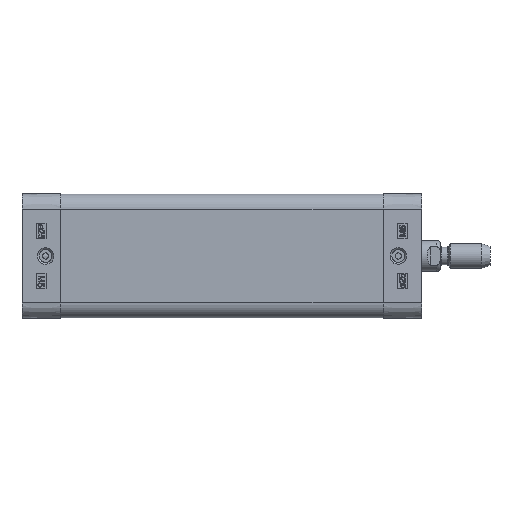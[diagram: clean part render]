
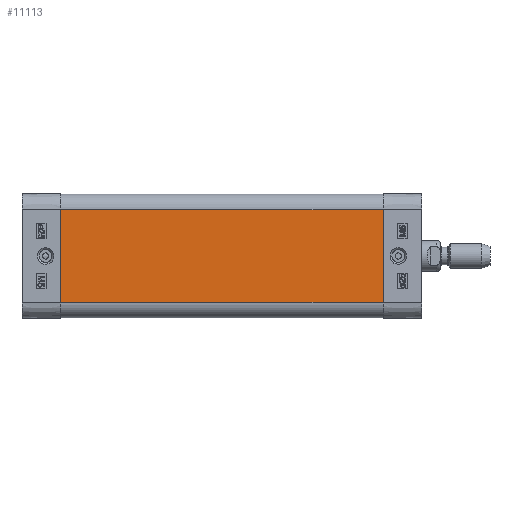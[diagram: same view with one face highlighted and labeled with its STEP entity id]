
A CAD part, left-side view. The second image highlights one B-rep face of the part: STEP entity #11113.
In plain terms, the highlighted planar face has unit normal (-1, 0, 0).
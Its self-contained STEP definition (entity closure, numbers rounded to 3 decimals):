
#8895=CARTESIAN_POINT('',(-20.,-104.0,15.0));
#8896=VERTEX_POINT('',#8895);
#8904=CARTESIAN_POINT('',(-20.,-104.0,-15.));
#8905=VERTEX_POINT('',#8904);
#8906=CARTESIAN_POINT('',(-20.,-104.0,-15.));
#8907=DIRECTION('',(0.0,0.0,1.0));
#8908=VECTOR('',#8907,30.);
#8909=LINE('',#8906,#8908);
#8910=EDGE_CURVE('',#8905,#8896,#8909,.T.);
#10041=CARTESIAN_POINT('',(-20.,0.0,15.0));
#10042=VERTEX_POINT('',#10041);
#10050=CARTESIAN_POINT('',(-20.,0.0,15.0));
#10051=DIRECTION('',(0.0,-1.0,0.0));
#10052=VECTOR('',#10051,104.0);
#10053=LINE('',#10050,#10052);
#10054=EDGE_CURVE('',#10042,#8896,#10053,.T.);
#11078=CARTESIAN_POINT('',(-20.,0.0,-15.));
#11079=VERTEX_POINT('',#11078);
#11080=CARTESIAN_POINT('',(-20.,0.0,-15.));
#11081=DIRECTION('',(0.0,-1.0,0.0));
#11082=VECTOR('',#11081,104.0);
#11083=LINE('',#11080,#11082);
#11084=EDGE_CURVE('',#11079,#8905,#11083,.T.);
#11097=CARTESIAN_POINT('',(-20.,0.0,-15.));
#11098=DIRECTION('',(-1.0,0.0,0.0));
#11099=DIRECTION('',(0.0,0.0,1.0));
#11100=AXIS2_PLACEMENT_3D('',#11097,#11098,#11099);
#11101=PLANE('',#11100);
#11102=ORIENTED_EDGE('',*,*,#8910,.T.);
#11103=ORIENTED_EDGE('',*,*,#10054,.F.);
#11104=CARTESIAN_POINT('',(-20.,0.0,-15.));
#11105=DIRECTION('',(0.0,0.0,1.0));
#11106=VECTOR('',#11105,30.);
#11107=LINE('',#11104,#11106);
#11108=EDGE_CURVE('',#11079,#10042,#11107,.T.);
#11109=ORIENTED_EDGE('',*,*,#11108,.F.);
#11110=ORIENTED_EDGE('',*,*,#11084,.T.);
#11111=EDGE_LOOP('',(#11102,#11103,#11109,#11110));
#11112=FACE_OUTER_BOUND('',#11111,.T.);
#11113=ADVANCED_FACE('',(#11112),#11101,.T.);
